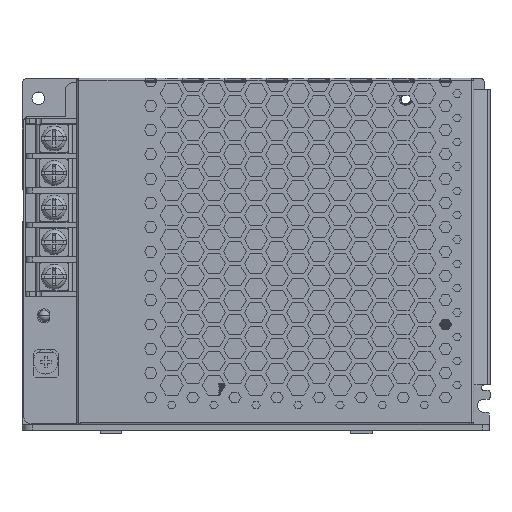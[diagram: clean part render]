
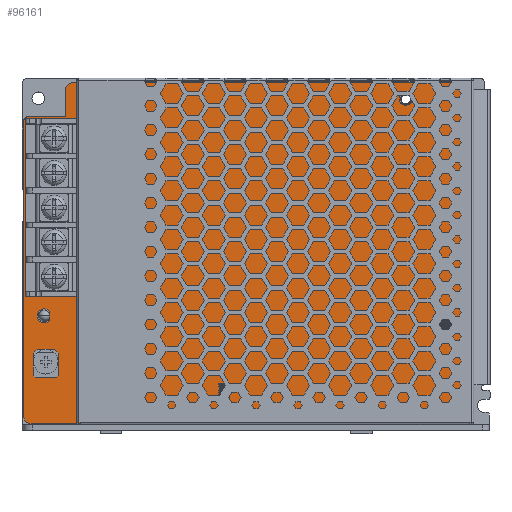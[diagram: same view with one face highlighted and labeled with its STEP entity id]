
A CAD part, top view. The second image highlights one B-rep face of the part: STEP entity #96161.
In plain terms, the highlighted planar face has unit normal (0, 0, 1).
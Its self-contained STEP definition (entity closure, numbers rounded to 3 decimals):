
#95561=CARTESIAN_POINT('',(-31.15,14.9,1.6));
#95562=DIRECTION('',(0.,0.,1.));
#95563=DIRECTION('',(0.,-1.,0.));
#95564=AXIS2_PLACEMENT_3D('',#95561,#95562,#95563);
#95569=CARTESIAN_POINT('',(-31.15,14.9,1.6));
#95570=DIRECTION('',(0.,0.,1.));
#95571=DIRECTION('',(0.,1.,0.));
#95572=AXIS2_PLACEMENT_3D('',#95569,#95570,#95571);
#95577=CARTESIAN_POINT('',(-39.95,43.9,1.6));
#95578=DIRECTION('',(0.,0.,1.));
#95579=DIRECTION('',(0.,-1.,0.));
#95580=AXIS2_PLACEMENT_3D('',#95577,#95578,#95579);
#95585=CARTESIAN_POINT('',(-39.95,43.9,1.6));
#95586=DIRECTION('',(0.,0.,1.));
#95587=DIRECTION('',(0.,1.,0.));
#95588=AXIS2_PLACEMENT_3D('',#95585,#95586,#95587);
#95593=CARTESIAN_POINT('',(-58.65,-44.8,1.6));
#95594=DIRECTION('',(0.,0.,1.));
#95595=DIRECTION('',(-1.,0.,0.));
#95596=AXIS2_PLACEMENT_3D('',#95593,#95594,#95595);
#95601=DIRECTION('',(0.,-1.,0.));
#95602=VECTOR('',#95601,81.6);
#95603=CARTESIAN_POINT('',(-60.65,36.8,1.6));
#95604=LINE('',#95603,#95602);
#95608=CARTESIAN_POINT('',(-59.65,36.8,1.6));
#95609=DIRECTION('',(0.,0.,1.));
#95610=DIRECTION('',(0.,1.,0.));
#95611=AXIS2_PLACEMENT_3D('',#95608,#95609,#95610);
#95616=DIRECTION('',(1.,0.,0.));
#95617=VECTOR('',#95616,10.5);
#95618=CARTESIAN_POINT('',(-59.65,37.8,1.6));
#95619=LINE('',#95618,#95617);
#95623=DIRECTION('',(0.,-1.,0.));
#95624=VECTOR('',#95623,7.4);
#95625=CARTESIAN_POINT('',(-49.15,45.2,1.6));
#95626=LINE('',#95625,#95624);
#95630=CARTESIAN_POINT('',(-47.15,45.2,1.6));
#95631=DIRECTION('',(0.,0.,1.));
#95632=DIRECTION('',(0.,1.,0.));
#95633=AXIS2_PLACEMENT_3D('',#95630,#95631,#95632);
#95638=DIRECTION('',(-1.,0.,0.));
#95639=VECTOR('',#95638,105.8);
#95640=CARTESIAN_POINT('',(58.65,47.2,1.6));
#95641=LINE('',#95640,#95639);
#95645=CARTESIAN_POINT('',(58.65,45.2,1.6));
#95646=DIRECTION('',(0.,0.,1.));
#95647=DIRECTION('',(1.,0.,0.));
#95648=AXIS2_PLACEMENT_3D('',#95645,#95646,#95647);
#95653=DIRECTION('',(0.,1.,0.));
#95654=VECTOR('',#95653,90.);
#95655=CARTESIAN_POINT('',(60.65,-44.8,1.6));
#95656=LINE('',#95655,#95654);
#95660=CARTESIAN_POINT('',(58.65,-44.8,1.6));
#95661=DIRECTION('',(0.,0.,1.));
#95662=DIRECTION('',(0.,-1.,0.));
#95663=AXIS2_PLACEMENT_3D('',#95660,#95661,#95662);
#95668=DIRECTION('',(1.,0.,0.));
#95669=VECTOR('',#95668,6.55);
#95670=CARTESIAN_POINT('',(52.1,-46.8,1.6));
#95671=LINE('',#95670,#95669);
#95675=DIRECTION('',(0.,1.,0.));
#95676=VECTOR('',#95675,4.);
#95677=CARTESIAN_POINT('',(52.1,-46.8,1.6));
#95678=LINE('',#95677,#95676);
#95682=DIRECTION('',(-1.,0.,0.));
#95683=VECTOR('',#95682,8.5);
#95684=CARTESIAN_POINT('',(52.1,-42.8,1.6));
#95685=LINE('',#95684,#95683);
#95689=DIRECTION('',(0.,1.,0.));
#95690=VECTOR('',#95689,4.);
#95691=CARTESIAN_POINT('',(43.6,-46.8,1.6));
#95692=LINE('',#95691,#95690);
#95696=DIRECTION('',(1.,0.,0.));
#95697=VECTOR('',#95696,27.95);
#95698=CARTESIAN_POINT('',(15.65,-46.8,1.6));
#95699=LINE('',#95698,#95697);
#95703=DIRECTION('',(0.,1.,0.));
#95704=VECTOR('',#95703,3.);
#95705=CARTESIAN_POINT('',(15.65,-46.8,1.6));
#95706=LINE('',#95705,#95704);
#95710=DIRECTION('',(-1.,0.,0.));
#95711=VECTOR('',#95710,42.);
#95712=CARTESIAN_POINT('',(15.65,-43.8,1.6));
#95713=LINE('',#95712,#95711);
#95717=DIRECTION('',(0.,1.,0.));
#95718=VECTOR('',#95717,3.);
#95719=CARTESIAN_POINT('',(-26.35,-46.8,1.6));
#95720=LINE('',#95719,#95718);
#95724=DIRECTION('',(1.,0.,0.));
#95725=VECTOR('',#95724,32.3);
#95726=CARTESIAN_POINT('',(-58.65,-46.8,1.6));
#95727=LINE('',#95726,#95725);
#95731=CARTESIAN_POINT('',(44.65,42.7,1.6));
#95732=DIRECTION('',(0.,0.,1.));
#95733=DIRECTION('',(0.,-1.,0.));
#95734=AXIS2_PLACEMENT_3D('',#95731,#95732,#95733);
#95739=CARTESIAN_POINT('',(44.65,42.7,1.6));
#95740=DIRECTION('',(0.,0.,1.));
#95741=DIRECTION('',(0.,1.,0.));
#95742=AXIS2_PLACEMENT_3D('',#95739,#95740,#95741);
#95908=CARTESIAN_POINT('',(-49.15,37.8,1.6));
#95910=VERTEX_POINT('',#95908);
#95924=CARTESIAN_POINT('',(-31.15,13.15,1.6));
#95925=CARTESIAN_POINT('',(-31.15,16.65,1.6));
#95926=VERTEX_POINT('',#95924);
#95927=VERTEX_POINT('',#95925);
#95928=CARTESIAN_POINT('',(52.1,-46.8,1.6));
#95929=CARTESIAN_POINT('',(52.1,-42.8,1.6));
#95930=VERTEX_POINT('',#95928);
#95931=VERTEX_POINT('',#95929);
#95932=CARTESIAN_POINT('',(43.6,-42.8,1.6));
#95933=VERTEX_POINT('',#95932);
#95934=CARTESIAN_POINT('',(43.6,-46.8,1.6));
#95935=VERTEX_POINT('',#95934);
#95940=CARTESIAN_POINT('',(-60.65,-44.8,1.6));
#95941=VERTEX_POINT('',#95940);
#95942=CARTESIAN_POINT('',(-58.65,-46.8,1.6));
#95943=VERTEX_POINT('',#95942);
#95948=CARTESIAN_POINT('',(58.65,-46.8,1.6));
#95949=VERTEX_POINT('',#95948);
#95950=CARTESIAN_POINT('',(60.65,-44.8,1.6));
#95951=VERTEX_POINT('',#95950);
#95956=CARTESIAN_POINT('',(-39.95,41.9,1.6));
#95957=CARTESIAN_POINT('',(-39.95,45.9,1.6));
#95958=VERTEX_POINT('',#95956);
#95959=VERTEX_POINT('',#95957);
#95968=CARTESIAN_POINT('',(15.65,-46.8,1.6));
#95969=CARTESIAN_POINT('',(15.65,-43.8,1.6));
#95970=VERTEX_POINT('',#95968);
#95971=VERTEX_POINT('',#95969);
#95972=CARTESIAN_POINT('',(-26.35,-43.8,1.6));
#95973=VERTEX_POINT('',#95972);
#95974=CARTESIAN_POINT('',(-26.35,-46.8,1.6));
#95975=VERTEX_POINT('',#95974);
#95980=CARTESIAN_POINT('',(-59.65,37.8,1.6));
#95981=VERTEX_POINT('',#95980);
#95982=CARTESIAN_POINT('',(-60.65,36.8,1.6));
#95983=VERTEX_POINT('',#95982);
#95988=CARTESIAN_POINT('',(60.65,45.2,1.6));
#95989=VERTEX_POINT('',#95988);
#95990=CARTESIAN_POINT('',(58.65,47.2,1.6));
#95991=VERTEX_POINT('',#95990);
#95992=CARTESIAN_POINT('',(-47.15,47.2,1.6));
#95993=CARTESIAN_POINT('',(-49.15,45.2,1.6));
#95994=VERTEX_POINT('',#95992);
#95995=VERTEX_POINT('',#95993);
#96004=CARTESIAN_POINT('',(44.65,40.95,1.6));
#96005=CARTESIAN_POINT('',(44.65,44.45,1.6));
#96006=VERTEX_POINT('',#96004);
#96007=VERTEX_POINT('',#96005);
#96100=CARTESIAN_POINT('',(0.,0.,1.6));
#96101=DIRECTION('',(0.,0.,1.));
#96102=DIRECTION('',(1.,0.,0.));
#96103=AXIS2_PLACEMENT_3D('',#96100,#96101,#96102);
#96104=PLANE('',#96103);
#96106=ORIENTED_EDGE('',*,*,#96105,.F.);
#96108=ORIENTED_EDGE('',*,*,#96107,.F.);
#96110=ORIENTED_EDGE('',*,*,#96109,.F.);
#96112=ORIENTED_EDGE('',*,*,#96111,.T.);
#96114=ORIENTED_EDGE('',*,*,#96113,.F.);
#96116=ORIENTED_EDGE('',*,*,#96115,.F.);
#96118=ORIENTED_EDGE('',*,*,#96117,.F.);
#96120=ORIENTED_EDGE('',*,*,#96119,.F.);
#96122=ORIENTED_EDGE('',*,*,#96121,.F.);
#96124=ORIENTED_EDGE('',*,*,#96123,.F.);
#96126=ORIENTED_EDGE('',*,*,#96125,.F.);
#96128=ORIENTED_EDGE('',*,*,#96127,.T.);
#96130=ORIENTED_EDGE('',*,*,#96129,.T.);
#96132=ORIENTED_EDGE('',*,*,#96131,.F.);
#96134=ORIENTED_EDGE('',*,*,#96133,.F.);
#96136=ORIENTED_EDGE('',*,*,#96135,.T.);
#96138=ORIENTED_EDGE('',*,*,#96137,.T.);
#96140=ORIENTED_EDGE('',*,*,#96139,.F.);
#96142=ORIENTED_EDGE('',*,*,#96141,.F.);
#96143=EDGE_LOOP('',(#96106,#96108,#96110,#96112,#96114,#96116,#96118,#96120,
#96122,#96124,#96126,#96128,#96130,#96132,#96134,#96136,#96138,#96140,#96142));
#96144=FACE_OUTER_BOUND('',#96143,.F.);
#96146=ORIENTED_EDGE('',*,*,#96145,.T.);
#96148=ORIENTED_EDGE('',*,*,#96147,.T.);
#96149=EDGE_LOOP('',(#96146,#96148));
#96150=FACE_BOUND('',#96149,.F.);
#96151=ORIENTED_EDGE('',*,*,#96080,.T.);
#96152=ORIENTED_EDGE('',*,*,#96094,.T.);
#96153=EDGE_LOOP('',(#96151,#96152));
#96154=FACE_BOUND('',#96153,.F.);
#96156=ORIENTED_EDGE('',*,*,#96155,.T.);
#96158=ORIENTED_EDGE('',*,*,#96157,.T.);
#96159=EDGE_LOOP('',(#96156,#96158));
#96160=FACE_BOUND('',#96159,.F.);
#95565=CIRCLE('',#95564,1.75);
#95573=CIRCLE('',#95572,1.75);
#95581=CIRCLE('',#95580,2.);
#95589=CIRCLE('',#95588,2.);
#95597=CIRCLE('',#95596,2.);
#95612=CIRCLE('',#95611,1.);
#95634=CIRCLE('',#95633,2.);
#95649=CIRCLE('',#95648,2.);
#95664=CIRCLE('',#95663,2.);
#95735=CIRCLE('',#95734,1.75);
#95743=CIRCLE('',#95742,1.75);
#96080=EDGE_CURVE('',#95926,#95927,#95565,.T.);
#96094=EDGE_CURVE('',#95927,#95926,#95573,.T.);
#96105=EDGE_CURVE('',#95941,#95943,#95597,.T.);
#96107=EDGE_CURVE('',#95983,#95941,#95604,.T.);
#96109=EDGE_CURVE('',#95981,#95983,#95612,.T.);
#96111=EDGE_CURVE('',#95981,#95910,#95619,.T.);
#96113=EDGE_CURVE('',#95995,#95910,#95626,.T.);
#96115=EDGE_CURVE('',#95994,#95995,#95634,.T.);
#96117=EDGE_CURVE('',#95991,#95994,#95641,.T.);
#96119=EDGE_CURVE('',#95989,#95991,#95649,.T.);
#96121=EDGE_CURVE('',#95951,#95989,#95656,.T.);
#96123=EDGE_CURVE('',#95949,#95951,#95664,.T.);
#96125=EDGE_CURVE('',#95930,#95949,#95671,.T.);
#96127=EDGE_CURVE('',#95930,#95931,#95678,.T.);
#96129=EDGE_CURVE('',#95931,#95933,#95685,.T.);
#96131=EDGE_CURVE('',#95935,#95933,#95692,.T.);
#96133=EDGE_CURVE('',#95970,#95935,#95699,.T.);
#96135=EDGE_CURVE('',#95970,#95971,#95706,.T.);
#96137=EDGE_CURVE('',#95971,#95973,#95713,.T.);
#96139=EDGE_CURVE('',#95975,#95973,#95720,.T.);
#96141=EDGE_CURVE('',#95943,#95975,#95727,.T.);
#96145=EDGE_CURVE('',#95958,#95959,#95581,.T.);
#96147=EDGE_CURVE('',#95959,#95958,#95589,.T.);
#96155=EDGE_CURVE('',#96006,#96007,#95735,.T.);
#96157=EDGE_CURVE('',#96007,#96006,#95743,.T.);
#96161=ADVANCED_FACE('',(#96144,#96150,#96154,#96160),#96104,.T.);
